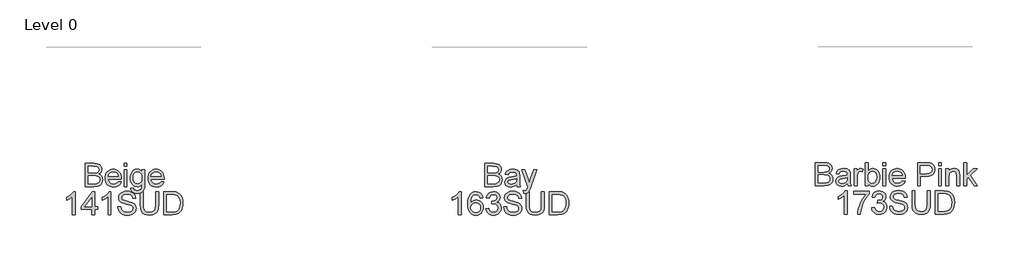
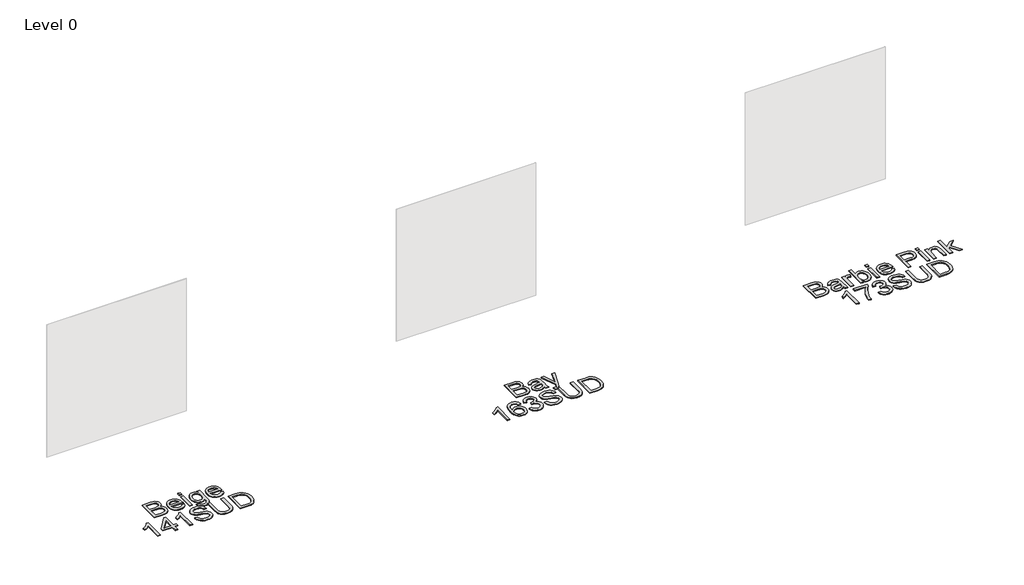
# One storey, part 27 of 37: 3 proxies.
"""IFC4 building model written with IfcOpenShell, lengths in millimetres."""

from ifc_helpers import new_model, si_unit, origin, origin_with_axes, place, context, project, spatial, polyline, outline, extrude, element, save

model = new_model("IFC4")

# Units and contexts
model_context = context("Model", 3, world=origin())
ifc_project = project(units=[si_unit("LENGTHUNIT", "METRE", prefix="MILLI")], contexts=[model_context])

# Site, building, storey
site = spatial("IfcSite", under=ifc_project)
building = spatial("IfcBuilding", under=site)
storey = spatial("IfcBuildingStorey", under=building, Name="Level 0", Elevation=0.0)

# Proxies
placement = place(None, origin())
element("IfcBuildingElementProxy", 1, Name="300mm Arial", ObjectType="300mm Arial", at=placement, inside=storey, context=model_context, shape_type="SweptSolid", body=[
    extrude(outline(polyline([(50.1996526, -12002.860494), (50.1996526, -11701.4915635), (165.1995643, -11701.4915635), (196.8282189, -11703.7080526), (221.5222978, -11710.3575196), (240.4498264, -11721.6055116), (254.7788302, -11737.6175755), (263.8011361, -11756.4531336), (266.8085714, -11776.1716086), (264.2793827, -11794.317388), (256.6918165, -11811.3779155), (243.9906906, -11826.3047274), (226.1208227, -11838.0493601), (247.4671755, -11849.1961846), (263.240116, -11866.1555446), (272.9797919, -11887.8054), (276.2263505, -11913.0237108), (274.0098615, -11934.0389697), (267.3603944, -11953.5275184), (257.4367776, -11970.1006023), (245.3978393, -11982.3694669), (230.6549683, -11991.253817), (212.6195535, -11997.6733578), (164.3166475, -12002.860494), (50.1996526, -12002.860494)]), holes=[polyline([(87.8707689, -11823.9226915), (156.664702, -11823.9226915), (196.8374159, -11820.68533), (210.8997052, -11815.1027207), (221.007263, -11806.7426024), (227.1049071, -11795.7337336), (229.1374551, -11782.2048733), (227.2428628, -11769.071486), (221.559086, -11757.630356), (212.343642, -11748.7000206), (199.8540483, -11743.0990172), (151.4407777, -11739.1626798), (87.8707689, -11739.1626798), (87.8707689, -11823.9226915)]), polyline([(87.8707689, -11965.1893777), (165.1259879, -11965.1893777), (193.0850196, -11963.7178497), (216.7398319, -11955.5140812), (232.4116048, -11938.7754504), (237.0193268, -11926.9480443), (238.5552342, -11913.3915928), (236.7526124, -11897.6462434), (231.3447471, -11884.1081859), (221.8993768, -11873.5223815), (207.9842404, -11866.6337912), (188.2749625, -11862.8538037), (161.447168, -11861.5938078), (87.8707689, -11861.5938078), (87.8707689, -11965.1893777)])]), origin_with_axes(), (0.0, 0.0, 1.0), 10.0),
    extrude(outline(polyline([(478.2671422, -11936.9360404), (515.2024945, -11941.64493), (501.8943634, -11969.4752029), (480.6583752, -11990.2789297), (451.9727766, -12003.2467701), (416.3158142, -12007.5693835), (392.941512, -12005.7046817), (372.1147925, -12000.1105761), (353.8356559, -11990.7870668), (338.1041021, -11977.7341537), (325.45356, -11961.3151204), (316.4174584, -11941.8932503), (310.9957975, -11919.4685435), (309.1885772, -11894.0409998), (311.0141916, -11867.7512327), (316.4910348, -11844.5792656), (325.6191069, -11824.5250983), (338.3984077, -11807.5887309), (354.0885748, -11794.133447), (371.9492456, -11784.5225298), (391.9804203, -11778.7559796), (414.1820987, -11776.8337961), (435.6687064, -11778.751381), (455.0997736, -11784.5041357), (472.4753001, -11794.0920602), (487.7952859, -11807.5151545), (500.3009745, -11824.4147337), (509.2336092, -11844.4321128), (514.59319, -11867.5672917), (516.3797169, -11893.8202706), (516.1589877, -11903.9738137), (346.8596935, -11903.9738137), (353.3804019, -11932.1719686), (368.5279431, -11952.902119), (390.3893306, -11965.6492302), (417.0515782, -11969.8982672), (437.101147, -11967.9300985), (453.9869305, -11962.0255925), (467.708929, -11951.8168672), (478.2671422, -11936.9360404)]), holes=[polyline([(346.8596935, -11866.3026974), (478.7086006, -11866.3026974), (473.613435, -11846.4002814), (463.6254388, -11832.1632482), (441.6628837, -11818.9194964), (414.0349459, -11814.5049125), (388.6418911, -11818.0273826), (367.6450263, -11828.5947929), (353.0493081, -11845.0667092), (346.8596935, -11866.3026974)])]), origin_with_axes(), (0.0, 0.0, 1.0), 10.0),
    extrude(outline(polyline([(554.0508332, -11739.1626798), (554.0508332, -11701.4915635), (591.7219495, -11701.4915635), (591.7219495, -11739.1626798), (554.0508332, -11739.1626798)])), origin_with_axes(), (0.0, 0.0, 1.0), 10.0),
    extrude(outline(polyline([(554.0508332, -12002.860494), (554.0508332, -11781.5426857), (591.7219495, -11781.5426857), (591.7219495, -12002.860494), (554.0508332, -12002.860494)])), origin_with_axes(), (0.0, 0.0, 1.0), 10.0),
    extrude(outline(polyline([(638.8108449, -12021.6960521), (676.4819612, -12026.4049417), (680.6390278, -12038.1771655), (688.6956435, -12046.2705694), (704.5329634, -12052.5613515), (725.2631138, -12054.6582789), (747.3728217, -12052.28544), (763.8171469, -12045.1669234), (775.2214887, -12033.7625816), (782.2112466, -12018.532267), (784.7864206, -11974.6071568), (772.2508416, -11986.9679918), (758.2621288, -11995.7971597), (742.820282, -12001.0946604), (725.9253014, -12002.860494), (705.2710266, -12000.8049533), (687.0861597, -11994.6383314), (671.3707008, -11984.3606281), (658.1246497, -11969.9718436), (647.6147209, -11952.708981), (640.107629, -11933.8090435), (635.6033738, -11913.2720311), (634.1019554, -11891.0979438), (636.796691, -11860.6832999), (644.8808978, -11832.7150712), (658.0694674, -11809.0142737), (676.077291, -11791.4019232), (698.2881665, -11780.4758279), (724.0858914, -11776.8337961), (741.7028404, -11778.8939353), (757.6919117, -11785.0743528), (772.053105, -11795.3750487), (784.7864206, -11809.7960229), (784.7864206, -11781.5426857), (822.4575369, -11781.5426857), (822.4575369, -11972.620594), (819.8823629, -12016.7388422), (812.156841, -12045.7923228), (798.8487099, -12065.0601423), (779.5257081, -12079.8214074), (754.6109, -12089.2023982), (724.5273498, -12092.3293952), (689.4773927, -12087.9240083), (661.877046, -12074.7078476), (651.4820804, -12064.7865301), (644.172725, -12052.644125), (639.9489798, -12038.2806323), (638.8108449, -12021.6960521)]), holes=[polyline([(671.7730717, -11888.5227699), (675.7921825, -11923.0760863), (687.8495149, -11946.8320661), (705.9769002, -11960.6000498), (728.2061697, -11965.1893777), (750.2698924, -11960.6276409), (768.4892482, -11946.9424307), (780.7121275, -11923.4899535), (784.7864206, -11889.6264159), (780.5925659, -11856.9676917), (768.0110016, -11833.4508352), (749.5249314, -11819.2413931), (727.6175586, -11814.5049125), (706.1056589, -11819.1678167), (688.0702441, -11833.1565296), (675.8473648, -11856.3238983), (671.7730717, -11888.5227699)])]), origin_with_axes(), (0.0, 0.0, 1.0), 10.0),
    extrude(outline(polyline([(1033.9161077, -11936.9360404), (1070.8514601, -11941.64493), (1057.5433289, -11969.4752029), (1036.3073407, -11990.2789297), (1007.6217421, -12003.2467701), (971.9647798, -12007.5693835), (948.5904775, -12005.7046817), (927.763758, -12000.1105761), (909.4846214, -11990.7870668), (893.7530676, -11977.7341537), (881.1025255, -11961.3151204), (872.066424, -11941.8932503), (866.6447631, -11919.4685435), (864.8375428, -11894.0409998), (866.6631572, -11867.7512327), (872.1400004, -11844.5792656), (881.2680724, -11824.5250983), (894.0473732, -11807.5887309), (909.7375403, -11794.133447), (927.5982111, -11784.5225298), (947.6293858, -11778.7559796), (969.8310642, -11776.8337961), (991.317672, -11778.751381), (1010.7487391, -11784.5041357), (1028.1242656, -11794.0920602), (1043.4442514, -11807.5151545), (1055.94994, -11824.4147337), (1064.8825747, -11844.4321128), (1070.2421555, -11867.5672917), (1072.0286824, -11893.8202706), (1071.8079532, -11903.9738137), (902.5086591, -11903.9738137), (909.0293674, -11932.1719686), (924.1769086, -11952.902119), (946.0382961, -11965.6492302), (972.7005437, -11969.8982672), (992.7501125, -11967.9300985), (1009.6358961, -11962.0255925), (1023.3578945, -11951.8168672), (1033.9161077, -11936.9360404)]), holes=[polyline([(902.5086591, -11866.3026974), (1034.3575661, -11866.3026974), (1029.2624005, -11846.4002814), (1019.2744043, -11832.1632482), (997.3118492, -11818.9194964), (969.6839114, -11814.5049125), (944.2908567, -11818.0273826), (923.2939918, -11828.5947929), (908.6982736, -11845.0667092), (902.5086591, -11866.3026974)])]), origin_with_axes(), (0.0, 0.0, 1.0), 10.0),
    extrude(outline(polyline([(-76.9403649, -12368.7849475), (-114.6114812, -12368.7849475), (-114.6114812, -12133.9290818), (-150.2960347, -12159.3497277), (-189.9537138, -12178.3692268), (-189.9537138, -12142.7582497), (-160.3668044, -12126.6634124), (-134.7346263, -12107.5151545), (-114.5287078, -12087.1528861), (-101.2205766, -12067.4160171), (-76.9403649, -12067.4160171), (-76.9403649, -12368.7849475)])), origin_with_axes(), (0.0, 0.0, 1.0), 10.0),
    extrude(outline(polyline([(134.9596643, -12368.7849475), (134.9596643, -12298.1516044), (-1.5981323, -12298.1516044), (-1.5981323, -12260.4804881), (144.3774434, -12072.1249066), (172.6307806, -12072.1249066), (172.6307806, -12260.4804881), (210.3018969, -12260.4804881), (210.3018969, -12298.1516044), (172.6307806, -12298.1516044), (172.6307806, -12368.7849475), (134.9596643, -12368.7849475)]), holes=[polyline([(134.9596643, -12260.4804881), (134.9596643, -12144.0826249), (44.7549991, -12260.4804881), (134.9596643, -12260.4804881)])]), origin_with_axes(), (0.0, 0.0, 1.0), 10.0),
    extrude(outline(polyline([(384.5308099, -12368.7849475), (346.8596935, -12368.7849475), (346.8596935, -12133.9290818), (311.17514, -12159.3497277), (271.5174609, -12178.3692268), (271.5174609, -12142.7582497), (301.1043704, -12126.6634124), (326.7365484, -12107.5151545), (346.942467, -12087.1528861), (360.2505982, -12067.4160171), (384.5308099, -12067.4160171), (384.5308099, -12368.7849475)])), origin_with_axes(), (0.0, 0.0, 1.0), 10.0),
    extrude(outline(polyline([(473.9997111, -12265.1893777), (511.6708274, -12265.1893777), (515.9934408, -12286.0942721), (523.8109332, -12302.8972822), (536.0062214, -12316.2330045), (553.462222, -12326.7360355), (574.7993778, -12333.5510494), (598.638131, -12335.8227207), (619.6257989, -12334.1028724), (638.0015045, -12328.9433274), (652.8915283, -12320.7763471), (663.4221504, -12310.0341929), (669.6853414, -12297.700949), (671.7730717, -12284.7606998), (670.2095732, -12272.1515444), (665.5190778, -12261.2530403), (655.9909341, -12251.9548229), (639.9144909, -12244.1465276), (585.0632854, -12229.7623415), (549.0568351, -12220.2433949), (526.0182252, -12211.1843008), (507.2654405, -12198.510766), (493.9757034, -12183.1516928), (486.0570435, -12165.4381747), (483.4174902, -12145.7013056), (486.6824429, -12123.637583), (496.477301, -12103.0637824), (512.5445471, -12085.6261758), (534.6266639, -12072.9710352), (561.1325616, -12065.2731044), (590.4711508, -12062.7071275), (622.2561551, -12065.3926661), (650.068034, -12073.4492818), (672.9135059, -12086.7114277), (689.7992895, -12105.013557), (700.4862614, -12127.2152354), (704.7352985, -12152.1760288), (667.0641821, -12152.1760288), (660.1480006, -12129.6984389), (645.7270264, -12113.4748429), (623.1942542, -12103.6523936), (591.9426787, -12100.3782438), (559.9553393, -12103.6156054), (538.0111782, -12113.3276901), (525.3192494, -12127.6199056), (521.0886065, -12144.5976597), (524.0868447, -12159.0738162), (533.0815595, -12170.7172813), (554.3451388, -12181.1283418), (594.5914291, -12191.7601314), (636.1253064, -12201.8584922), (661.2516466, -12210.669266), (682.7267581, -12224.3360821), (697.7087523, -12241.2034716), (706.5103291, -12261.0874934), (709.444188, -12283.8042066), (706.0688707, -12307.0267576), (695.9429188, -12328.869751), (679.4801995, -12347.668521), (657.0945801, -12361.7584014), (630.1748151, -12370.5599781), (600.109659, -12373.4938371), (563.2018979, -12370.3300519), (532.8240421, -12360.8386964), (508.6266039, -12344.9829824), (490.2600953, -12322.7261217), (478.4694773, -12295.6132187), (473.9997111, -12265.1893777)])), origin_with_axes(), (0.0, 0.0, 1.0), 10.0),
    extrude(outline(polyline([(963.7242231, -12067.4160171), (1001.3953394, -12067.4160171), (1001.3953394, -12241.277048), (998.8385595, -12281.9923878), (991.1682199, -12313.3451308), (976.8392162, -12337.533372), (954.306444, -12356.7552063), (923.514721, -12369.3091794), (884.4088649, -12373.4938371), (846.1583345, -12369.8518053), (815.5781436, -12358.92571), (792.6590953, -12341.0926303), (777.3919925, -12316.7296452), (768.811145, -12284.052527), (765.9508625, -12241.277048), (765.9508625, -12067.4160171), (803.6219788, -12067.4160171), (803.6219788, -12239.9526728), (805.4797828, -12273.8070134), (811.0531951, -12297.3790523), (821.1515558, -12313.7038158), (836.5842055, -12325.8163305), (856.7073507, -12333.3211232), (880.8771977, -12335.8227207), (919.1921075, -12330.8747079), (933.5349068, -12324.6896919), (944.6679357, -12316.0306694), (953.0050614, -12303.8537754), (958.9601512, -12287.1151446), (963.7242231, -12239.9526728), (963.7242231, -12067.4160171)])), origin_with_axes(), (0.0, 0.0, 1.0), 10.0),
    extrude(outline(polyline([(1067.3197929, -12368.7849475), (1067.3197929, -12067.4160171), (1171.2832447, -12067.4160171), (1225.0675924, -12071.7570246), (1249.0902867, -12080.12634), (1269.3605847, -12093.3149095), (1290.2010997, -12116.270746), (1305.0451382, -12144.8183889), (1313.9294884, -12178.406015), (1316.8909384, -12216.4818015), (1314.8859816, -12248.8278259), (1308.8711109, -12277.2926953), (1299.7108493, -12301.5269217), (1288.2697192, -12321.1810173), (1275.0995438, -12336.6964405), (1260.752146, -12348.5146496), (1244.2802296, -12357.2794381), (1224.7364986, -12363.6345996), (1176.2864399, -12368.7849475), (1067.3197929, -12368.7849475)]), holes=[polyline([(1104.9909092, -12331.1138312), (1171.6511267, -12331.1138312), (1199.2238823, -12329.7526678), (1220.1379737, -12325.6691777), (1235.9201113, -12319.1024841), (1248.0970053, -12310.2917103), (1261.1844073, -12293.9853408), (1271.0160536, -12272.8781114), (1277.16888, -12246.8780514), (1279.2198221, -12215.8931903), (1275.2007113, -12174.8375597), (1263.1433789, -12144.5240833), (1245.3286933, -12123.7019623), (1224.0375228, -12111.1203981), (1202.3692733, -12106.5954496), (1170.6210571, -12105.0871334), (1104.9909092, -12105.0871334), (1104.9909092, -12331.1138312)])]), origin_with_axes(), (0.0, 0.0, 1.0), 10.0),
])
element("IfcBuildingElementProxy", 2, Name="300mm Arial", ObjectType="300mm Arial", at=placement, inside=storey, context=model_context, shape_type="SweptSolid", body=[
    extrude(outline(polyline([(5226.7830103, -12002.860494), (5226.7830103, -11701.4915635), (5341.782922, -11701.4915635), (5373.4115765, -11703.7080526), (5398.1056555, -11710.3575196), (5417.0331841, -11721.6055116), (5431.3621878, -11737.6175755), (5440.3844938, -11756.4531336), (5443.3919291, -11776.1716086), (5440.8627404, -11794.317388), (5433.2751742, -11811.3779155), (5420.5740483, -11826.3047274), (5402.7041804, -11838.0493601), (5424.0505332, -11849.1961846), (5439.8234737, -11866.1555446), (5449.5631496, -11887.8054), (5452.8097082, -11913.0237108), (5450.5932191, -11934.0389697), (5443.9437521, -11953.5275184), (5434.0201353, -11970.1006023), (5421.981197, -11982.3694669), (5407.238326, -11991.253817), (5389.2029112, -11997.6733578), (5340.9000052, -12002.860494), (5226.7830103, -12002.860494)]), holes=[polyline([(5264.4541266, -11823.9226915), (5333.2480597, -11823.9226915), (5373.4207736, -11820.68533), (5387.4830629, -11815.1027207), (5397.5906207, -11806.7426024), (5403.6882648, -11795.7337336), (5405.7208128, -11782.2048733), (5403.8262205, -11769.071486), (5398.1424437, -11757.630356), (5388.9269997, -11748.7000206), (5376.437406, -11743.0990172), (5328.0241354, -11739.1626798), (5264.4541266, -11739.1626798), (5264.4541266, -11823.9226915)]), polyline([(5264.4541266, -11965.1893777), (5341.7093456, -11965.1893777), (5369.6683772, -11963.7178497), (5393.3231895, -11955.5140812), (5408.9949625, -11938.7754504), (5413.6026845, -11926.9480443), (5415.1385919, -11913.3915928), (5413.3359701, -11897.6462434), (5407.9281047, -11884.1081859), (5398.4827345, -11873.5223815), (5384.5675981, -11866.6337912), (5364.8583202, -11862.8538037), (5338.0305257, -11861.5938078), (5264.4541266, -11861.5938078), (5264.4541266, -11965.1893777)])]), origin_with_axes(), (0.0, 0.0, 1.0), 10.0),
    extrude(outline(polyline([(5641.1652897, -11974.6071568), (5623.1666631, -11990.0398064), (5604.6346076, -12000.1381672), (5585.1460589, -12005.7115794), (5564.2779527, -12007.5693835), (5532.796451, -12003.0996173), (5509.5739, -11989.6903186), (5495.2540934, -11969.3280501), (5490.4808245, -11943.9993748), (5492.2834462, -11928.3827841), (5497.6913116, -11914.2009331), (5506.0330358, -11902.0608273), (5516.6372343, -11892.5694718), (5543.0143734, -11880.2086368), (5575.6087181, -11874.5432541), (5614.125963, -11868.5835657), (5640.9445605, -11861.5938078), (5641.1652897, -11853.2060983), (5638.5717216, -11836.3938912), (5630.7910174, -11825.3942195), (5613.3901991, -11817.2272392), (5589.1467756, -11814.5049125), (5566.7059739, -11816.3167313), (5551.0342009, -11821.7521878), (5540.3472289, -11831.8045633), (5532.8608303, -11847.4671392), (5495.189714, -11842.7582497), (5501.7288165, -11822.156858), (5511.4868864, -11805.9700502), (5525.3744317, -11793.590821), (5544.3019604, -11784.4121652), (5567.4509349, -11778.7283884), (5594.0028179, -11776.8337961), (5619.469449, -11778.5076592), (5639.6569735, -11783.5292485), (5654.8780911, -11791.0800264), (5665.4455014, -11800.3414556), (5672.4536534, -11811.7917827), (5676.996996, -11825.9092543), (5678.836406, -11858.8714811), (5678.836406, -11905.7396473), (5680.7493924, -11971.1858542), (5688.2541851, -12002.860494), (5650.5830688, -12002.860494), (5641.1652897, -11974.6071568)]), holes=[polyline([(5641.1652897, -11899.2649241), (5580.3911841, -11910.8164188), (5547.9807803, -11916.9232599), (5533.3022887, -11926.8560738), (5528.1519408, -11941.3506244), (5530.957041, -11952.5526311), (5539.3723416, -11961.7312869), (5553.2139017, -11967.8565221), (5572.2977802, -11969.8982672), (5592.5312899, -11967.64499), (5610.4103549, -11960.8851583), (5624.9049055, -11950.9247533), (5634.9848722, -11939.069756), (5639.4546384, -11926.8560738), (5640.9445605, -11909.933502), (5641.1652897, -11899.2649241)])]), origin_with_axes(), (0.0, 0.0, 1.0), 10.0),
    extrude(outline(polyline([(5730.6341909, -12087.6205057), (5725.9253014, -12051.3473409), (5745.0551651, -12054.6582789), (5762.9342301, -12050.5012124), (5773.8971135, -12038.9129295), (5784.1978094, -12011.1746271), (5787.1408654, -12002.0511536), (5707.0897432, -11781.5426857), (5746.8209987, -11781.5426857), (5789.2745809, -11904.4152721), (5804.0634372, -11953.5643066), (5818.8522934, -11910.1542312), (5862.483098, -11781.5426857), (5901.9200479, -11781.5426857), (5824.8855581, -12008.1579947), (5804.8727775, -12057.3070293), (5794.627264, -12072.9971964), (5783.020587, -12083.8681093), (5769.5377119, -12090.2140737), (5753.6636038, -12092.3293952), (5730.6341909, -12087.6205057)])), origin_with_axes(), (0.0, 0.0, 1.0), 10.0),
    extrude(outline(polyline([(4923.0596351, -12368.7849475), (4885.3885188, -12368.7849475), (4885.3885188, -12133.9290818), (4849.7039653, -12159.3497277), (4810.0462862, -12178.3692268), (4810.0462862, -12142.7582497), (4839.6331956, -12126.6634124), (4865.2653737, -12107.5151545), (4885.4712922, -12087.1528861), (4898.7794234, -12067.4160171), (4923.0596351, -12067.4160171), (4923.0596351, -12368.7849475)])), origin_with_axes(), (0.0, 0.0, 1.0), 10.0),
    extrude(outline(polyline([(5205.5930074, -12147.4671392), (5167.9218911, -12152.1760288), (5161.8518382, -12133.5060175), (5153.6480697, -12120.7589064), (5136.559951, -12109.0050766), (5115.903377, -12105.0871334), (5098.392194, -12107.3680017), (5081.9110806, -12114.2106069), (5067.7568209, -12128.622384), (5056.1961292, -12148.4604206), (5048.3878338, -12176.5206198), (5045.4907631, -12215.5988847), (5060.6015161, -12197.9681401), (5078.7105073, -12185.5429257), (5098.8060612, -12178.1760888), (5119.8765025, -12175.7204764), (5137.9762967, -12177.3989381), (5154.6781393, -12182.4343229), (5169.9820303, -12190.8266309), (5183.8879697, -12202.5758621), (5195.4440629, -12216.9830407), (5203.6984151, -12233.349191), (5208.6510265, -12251.6743129), (5210.3018969, -12271.9584064), (5207.1932941, -12298.9333537), (5197.8674855, -12323.9401323), (5183.0970234, -12345.1485293), (5163.6544599, -12360.7283318), (5140.422712, -12370.3024607), (5114.2846962, -12373.4938371), (5091.8277997, -12371.3785156), (5071.5460054, -12365.0325512), (5053.4393135, -12354.4559438), (5037.5077238, -12339.6486935), (5024.5191901, -12319.9854009), (5015.241666, -12294.8406665), (5009.6751516, -12264.2144904), (5007.8196468, -12228.1068726), (5009.879786, -12187.6260575), (5016.0602035, -12153.0773396), (5026.3608993, -12124.4607189), (5040.7818736, -12101.7761954), (5056.4122598, -12086.7436174), (5074.5350466, -12076.0060617), (5095.1502339, -12069.5635282), (5118.2578217, -12067.4160171), (5151.312019, -12072.7319119), (5177.7811286, -12088.6795964), (5196.3223811, -12114.0082718), (5205.5930074, -12147.4671392)]), holes=[polyline([(5045.4907631, -12271.3697952), (5047.6704639, -12288.0624407), (5054.2095664, -12304.0009282), (5064.3631095, -12317.7045325), (5077.3861321, -12327.6925287), (5093.1038903, -12333.7901727), (5111.3416402, -12335.8227207), (5136.2012661, -12331.6104719), (5155.7449971, -12318.9737254), (5168.4093347, -12299.1080976), (5172.6307806, -12273.2092052), (5168.464517, -12248.3495793), (5155.9657263, -12229.3944595), (5136.0909015, -12217.3923095), (5109.7965359, -12213.3915928), (5084.9736982, -12217.3923095), (5064.2159567, -12229.3944595), (5050.1720615, -12247.8897269), (5045.4907631, -12271.3697952)])]), origin_with_axes(), (0.0, 0.0, 1.0), 10.0),
    extrude(outline(polyline([(5243.2641237, -12288.7338254), (5280.93524, -12284.0249358), (5289.3689348, -12307.6981422), (5301.7205727, -12323.6826149), (5318.5971593, -12332.7876943), (5340.6056996, -12335.8227207), (5366.4310157, -12331.6472601), (5386.3702198, -12319.1208782), (5399.117331, -12300.4324728), (5403.366368, -12277.7709419), (5399.1541192, -12256.2590422), (5386.5173726, -12238.8122386), (5367.3875089, -12227.2515469), (5343.6959084, -12223.397983), (5317.2819811, -12227.5182614), (5321.4758359, -12189.8471451), (5327.5091006, -12190.2886035), (5350.078661, -12187.5846708), (5370.2569884, -12179.4728728), (5384.4940217, -12165.7508744), (5389.2396994, -12146.2163404), (5385.8000027, -12129.9467592), (5375.4809128, -12116.7489926), (5359.7355634, -12108.0025982), (5340.0170884, -12105.0871334), (5320.2618253, -12108.0301893), (5304.1118057, -12116.8593572), (5292.3211878, -12131.574637), (5285.6441295, -12152.1760288), (5247.9730132, -12147.4671392), (5259.0646554, -12113.6403898), (5278.8015244, -12088.3852908), (5305.8040629, -12072.6583355), (5338.6927133, -12067.4160171), (5362.3751167, -12070.0003881), (5384.1261397, -12077.7535011), (5402.4650571, -12089.9855775), (5415.911144, -12106.0068384), (5424.1608978, -12124.4653175), (5426.9108157, -12144.0090485), (5424.2988535, -12162.2192072), (5416.462967, -12178.7371088), (5403.5135208, -12192.8085951), (5385.5608794, -12203.6795081), (5409.1421153, -12213.2076518), (5426.6165101, -12229.4312477), (5437.4322408, -12251.4673793), (5441.0374843, -12278.4331295), (5439.2348625, -12297.5445992), (5433.8269972, -12315.1477526), (5424.8138883, -12331.2425899), (5412.1955359, -12345.829111), (5396.822667, -12357.9324287), (5379.5460088, -12366.5776555), (5360.3655613, -12371.7647917), (5339.2813244, -12373.4938371), (5320.2250371, -12372.0177105), (5302.8610069, -12367.589331), (5287.1892339, -12360.2086985), (5273.2097181, -12349.875813), (5261.488078, -12337.1976797), (5252.5899323, -12322.781304), (5246.5152808, -12306.6266859), (5243.2641237, -12288.7338254)])), origin_with_axes(), (0.0, 0.0, 1.0), 10.0),
    extrude(outline(polyline([(5473.9997111, -12265.1893777), (5511.6708274, -12265.1893777), (5515.9934408, -12286.0942721), (5523.8109332, -12302.8972822), (5536.0062214, -12316.2330045), (5553.462222, -12326.7360355), (5574.7993778, -12333.5510494), (5598.638131, -12335.8227207), (5619.6257989, -12334.1028724), (5638.0015045, -12328.9433274), (5652.8915283, -12320.7763471), (5663.4221504, -12310.0341929), (5669.6853414, -12297.700949), (5671.7730717, -12284.7606998), (5670.2095732, -12272.1515444), (5665.5190778, -12261.2530403), (5655.9909341, -12251.9548229), (5639.9144909, -12244.1465276), (5585.0632854, -12229.7623415), (5549.0568351, -12220.2433949), (5526.0182252, -12211.1843008), (5507.2654405, -12198.510766), (5493.9757034, -12183.1516928), (5486.0570435, -12165.4381747), (5483.4174902, -12145.7013056), (5486.6824429, -12123.637583), (5496.477301, -12103.0637824), (5512.5445471, -12085.6261758), (5534.6266639, -12072.9710352), (5561.1325616, -12065.2731044), (5590.4711508, -12062.7071275), (5622.2561551, -12065.3926661), (5650.068034, -12073.4492818), (5672.9135059, -12086.7114277), (5689.7992895, -12105.013557), (5700.4862614, -12127.2152354), (5704.7352985, -12152.1760288), (5667.0641821, -12152.1760288), (5660.1480006, -12129.6984389), (5645.7270264, -12113.4748429), (5623.1942542, -12103.6523936), (5591.9426787, -12100.3782438), (5559.9553393, -12103.6156054), (5538.0111782, -12113.3276901), (5525.3192494, -12127.6199056), (5521.0886065, -12144.5976597), (5524.0868447, -12159.0738162), (5533.0815595, -12170.7172813), (5554.3451388, -12181.1283418), (5594.5914291, -12191.7601314), (5636.1253064, -12201.8584922), (5661.2516466, -12210.669266), (5682.7267581, -12224.3360821), (5697.7087523, -12241.2034716), (5706.5103291, -12261.0874934), (5709.444188, -12283.8042066), (5706.0688707, -12307.0267576), (5695.9429188, -12328.869751), (5679.4801995, -12347.668521), (5657.0945801, -12361.7584014), (5630.1748151, -12370.5599781), (5600.109659, -12373.4938371), (5563.2018979, -12370.3300519), (5532.8240421, -12360.8386964), (5508.6266039, -12344.9829824), (5490.2600953, -12322.7261217), (5478.4694773, -12295.6132187), (5473.9997111, -12265.1893777)])), origin_with_axes(), (0.0, 0.0, 1.0), 10.0),
    extrude(outline(polyline([(5963.7242231, -12067.4160171), (6001.3953394, -12067.4160171), (6001.3953394, -12241.277048), (5998.8385595, -12281.9923878), (5991.1682199, -12313.3451308), (5976.8392162, -12337.533372), (5954.306444, -12356.7552063), (5923.514721, -12369.3091794), (5884.4088649, -12373.4938371), (5846.1583345, -12369.8518053), (5815.5781436, -12358.92571), (5792.6590953, -12341.0926303), (5777.3919925, -12316.7296452), (5768.811145, -12284.052527), (5765.9508625, -12241.277048), (5765.9508625, -12067.4160171), (5803.6219788, -12067.4160171), (5803.6219788, -12239.9526728), (5805.4797828, -12273.8070134), (5811.0531951, -12297.3790523), (5821.1515558, -12313.7038158), (5836.5842055, -12325.8163305), (5856.7073507, -12333.3211232), (5880.8771977, -12335.8227207), (5919.1921075, -12330.8747079), (5933.5349068, -12324.6896919), (5944.6679357, -12316.0306694), (5953.0050614, -12303.8537754), (5958.9601512, -12287.1151446), (5963.7242231, -12239.9526728), (5963.7242231, -12067.4160171)])), origin_with_axes(), (0.0, 0.0, 1.0), 10.0),
    extrude(outline(polyline([(6067.3197929, -12368.7849475), (6067.3197929, -12067.4160171), (6171.2832447, -12067.4160171), (6225.0675924, -12071.7570246), (6249.0902867, -12080.12634), (6269.3605847, -12093.3149095), (6290.2010997, -12116.270746), (6305.0451382, -12144.8183889), (6313.9294884, -12178.406015), (6316.8909384, -12216.4818015), (6314.8859816, -12248.8278259), (6308.8711109, -12277.2926953), (6299.7108493, -12301.5269217), (6288.2697192, -12321.1810173), (6275.0995438, -12336.6964405), (6260.752146, -12348.5146496), (6244.2802296, -12357.2794381), (6224.7364986, -12363.6345996), (6176.2864399, -12368.7849475), (6067.3197929, -12368.7849475)]), holes=[polyline([(6104.9909092, -12331.1138312), (6171.6511267, -12331.1138312), (6199.2238823, -12329.7526678), (6220.1379737, -12325.6691777), (6235.9201113, -12319.1024841), (6248.0970053, -12310.2917103), (6261.1844073, -12293.9853408), (6271.0160536, -12272.8781114), (6277.16888, -12246.8780514), (6279.2198221, -12215.8931903), (6275.2007113, -12174.8375597), (6263.1433789, -12144.5240833), (6245.3286933, -12123.7019623), (6224.0375228, -12111.1203981), (6202.3692733, -12106.5954496), (6170.6210571, -12105.0871334), (6104.9909092, -12105.0871334), (6104.9909092, -12331.1138312)])]), origin_with_axes(), (0.0, 0.0, 1.0), 10.0),
])
element("IfcBuildingElementProxy", 3, Name="300mm Arial", ObjectType="300mm Arial", at=placement, inside=storey, context=model_context, shape_type="SweptSolid", body=[
    extrude(outline(polyline([(9513.3862453, -11992.860494), (9513.3862453, -11691.4915635), (9628.386157, -11691.4915635), (9660.0148115, -11693.7080526), (9684.7088904, -11700.3575196), (9703.6364191, -11711.6055116), (9717.9654228, -11727.6175755), (9726.9877287, -11746.4531336), (9729.995164, -11766.1716086), (9727.4659753, -11784.317388), (9719.8784092, -11801.3779155), (9707.1772833, -11816.3047274), (9689.3074154, -11828.0493601), (9710.6537681, -11839.1961846), (9726.4267087, -11856.1555446), (9736.1663845, -11877.8054), (9739.4129431, -11903.0237108), (9737.1964541, -11924.0389697), (9730.546987, -11943.5275184), (9720.6233702, -11960.1006023), (9708.5844319, -11972.3694669), (9693.841561, -11981.253817), (9675.8061461, -11987.6733578), (9627.5032402, -11992.860494), (9513.3862453, -11992.860494)]), holes=[polyline([(9551.0573616, -11813.9226915), (9619.8512947, -11813.9226915), (9660.0240086, -11810.68533), (9674.0862978, -11805.1027207), (9684.1938556, -11796.7426024), (9690.2914997, -11785.7337336), (9692.3240477, -11772.2048733), (9690.4294555, -11759.071486), (9684.7456786, -11747.630356), (9675.5302346, -11738.7000206), (9663.0406409, -11733.0990172), (9614.6273703, -11729.1626798), (9551.0573616, -11729.1626798), (9551.0573616, -11813.9226915)]), polyline([(9551.0573616, -11955.1893777), (9628.3125806, -11955.1893777), (9656.2716122, -11953.7178497), (9679.9264245, -11945.5140812), (9695.5981975, -11928.7754504), (9700.2059195, -11916.9480443), (9701.7418268, -11903.3915928), (9699.939205, -11887.6462434), (9694.5313397, -11874.1081859), (9685.0859695, -11863.5223815), (9671.170833, -11856.6337912), (9651.4615551, -11852.8538037), (9624.6337606, -11851.5938078), (9551.0573616, -11851.5938078), (9551.0573616, -11955.1893777)])]), origin_with_axes(), (0.0, 0.0, 1.0), 10.0),
    extrude(outline(polyline([(9927.7685246, -11964.6071568), (9909.769898, -11980.0398064), (9891.2378425, -11990.1381672), (9871.7492938, -11995.7115794), (9850.8811877, -11997.5693835), (9819.3996859, -11993.0996173), (9796.177135, -11979.6903186), (9781.8573283, -11959.3280501), (9777.0840594, -11933.9993748), (9778.8866812, -11918.3827841), (9784.2945465, -11904.2009331), (9792.6362708, -11892.0608273), (9803.2404693, -11882.5694718), (9829.6176083, -11870.2086368), (9862.2119531, -11864.5432541), (9900.729198, -11858.5835657), (9927.5477954, -11851.5938078), (9927.7685246, -11843.2060983), (9925.1749566, -11826.3938912), (9917.3942524, -11815.3942195), (9899.993434, -11807.2272392), (9875.7500105, -11804.5049125), (9853.3092088, -11806.3167313), (9837.6374358, -11811.7521878), (9826.9504639, -11821.8045633), (9819.4640653, -11837.4671392), (9781.792949, -11832.7582497), (9788.3320514, -11812.156858), (9798.0901213, -11795.9700502), (9811.9776667, -11783.590821), (9830.9051953, -11774.4121652), (9854.0541699, -11768.7283884), (9880.6060529, -11766.8337961), (9906.072684, -11768.5076592), (9926.2602085, -11773.5292485), (9941.481326, -11781.0800264), (9952.0487363, -11790.3414556), (9959.0568883, -11801.7917827), (9963.600231, -11815.9092543), (9965.4396409, -11848.8714811), (9965.4396409, -11895.7396473), (9967.3526273, -11961.1858542), (9974.85742, -11992.860494), (9937.1863037, -11992.860494), (9927.7685246, -11964.6071568)]), holes=[polyline([(9927.7685246, -11889.2649241), (9866.994419, -11900.8164188), (9834.5840153, -11906.9232599), (9819.9055237, -11916.8560738), (9814.7551757, -11931.3506244), (9817.5602759, -11942.5526311), (9825.9755766, -11951.7312869), (9839.8171366, -11957.8565221), (9858.9010151, -11959.8982672), (9879.1345249, -11957.64499), (9897.0135898, -11950.8851583), (9911.5081405, -11940.9247533), (9921.5881071, -11929.069756), (9926.0578734, -11916.8560738), (9927.5477954, -11899.933502), (9927.7685246, -11889.2649241)])]), origin_with_axes(), (0.0, 0.0, 1.0), 10.0),
    extrude(outline(polyline([(10017.2374259, -11992.860494), (10017.2374259, -11771.5426857), (10050.1996526, -11771.5426857), (10050.1996526, -11804.2841833), (10062.3765467, -11785.3014723), (10073.5969475, -11774.1178596), (10084.8541366, -11768.654812), (10097.1413952, -11766.8337961), (10115.903377, -11769.7400639), (10134.9596643, -11778.4588672), (10122.3781001, -11812.2304343), (10109.1343483, -11806.4362929), (10095.8905964, -11804.5049125), (10084.6426044, -11806.3627165), (10074.5902289, -11811.9361288), (10066.4692339, -11820.8020848), (10061.0153833, -11832.5375205), (10056.4352525, -11853.5803706), (10054.9085422, -11876.5362071), (10054.9085422, -11992.860494), (10017.2374259, -11992.860494)])), origin_with_axes(), (0.0, 0.0, 1.0), 10.0),
    extrude(outline(polyline([(10196.1752283, -11992.860494), (10158.504112, -11992.860494), (10158.504112, -11691.4915635), (10196.1752283, -11691.4915635), (10196.1752283, -11803.2541137), (10208.5636545, -11787.3202248), (10222.5523674, -11775.9388755), (10238.1413669, -11769.110066), (10255.3306531, -11766.8337961), (10274.7364284, -11768.8847383), (10293.0753459, -11775.0375646), (10309.2989418, -11784.9059992), (10322.3587527, -11798.1037657), (10332.5950692, -11814.5021057), (10340.3481822, -11833.9722603), (10345.2318157, -11855.7048891), (10346.8596935, -11878.8906519), (10345.1743342, -11905.64487), (10340.118256, -11929.1801206), (10331.691459, -11949.4964038), (10319.8939433, -11966.5937195), (10305.7327857, -11980.1455725), (10290.2150633, -11989.8254675), (10273.3407761, -11995.6334045), (10255.109924, -11997.5693835), (10237.3550192, -11995.0723845), (10221.6142683, -11987.5813874), (10207.8876713, -11975.0963921), (10196.1752283, -11957.6173988), (10196.1752283, -11992.860494)]), holes=[polyline([(10196.1752283, -11880.6564855), (10198.7504023, -11912.0736078), (10206.4759242, -11933.3371872), (10215.6039962, -11944.9576597), (10226.2127932, -11953.2579972), (10238.3023153, -11958.2381997), (10251.8725624, -11959.8982672), (10273.6143883, -11955.0054367), (10292.1924291, -11940.3269451), (10304.9395402, -11915.9547629), (10309.1885772, -11881.9808606), (10305.1142841, -11847.5103177), (10292.8914049, -11823.414047), (10274.8927782, -11809.2321961), (10253.4912432, -11804.5049125), (10231.7494173, -11809.397743), (10213.1713765, -11824.0762346), (10200.4242654, -11848.0069584), (10196.1752283, -11880.6564855)])]), origin_with_axes(), (0.0, 0.0, 1.0), 10.0),
    extrude(outline(polyline([(10389.2396994, -11729.1626798), (10389.2396994, -11691.4915635), (10426.9108157, -11691.4915635), (10426.9108157, -11729.1626798), (10389.2396994, -11729.1626798)])), origin_with_axes(), (0.0, 0.0, 1.0), 10.0),
    extrude(outline(polyline([(10389.2396994, -11992.860494), (10389.2396994, -11771.5426857), (10426.9108157, -11771.5426857), (10426.9108157, -11992.860494), (10389.2396994, -11992.860494)])), origin_with_axes(), (0.0, 0.0, 1.0), 10.0),
    extrude(outline(polyline([(10638.3693865, -11926.9360404), (10675.3047388, -11931.64493), (10661.9966077, -11959.4752029), (10640.7606195, -11980.2789297), (10612.0750209, -11993.2467701), (10576.4180585, -11997.5693835), (10553.0437563, -11995.7046817), (10532.2170368, -11990.1105761), (10513.9379002, -11980.7870668), (10498.2063464, -11967.7341537), (10485.5558043, -11951.3151204), (10476.5197027, -11931.8932503), (10471.0980418, -11909.4685435), (10469.2908215, -11884.0409998), (10471.1164359, -11857.7512327), (10476.5932791, -11834.5792656), (10485.7213512, -11814.5250983), (10498.500652, -11797.5887309), (10514.1908191, -11784.133447), (10532.0514899, -11774.5225298), (10552.0826646, -11768.7559796), (10574.284343, -11766.8337961), (10595.7709507, -11768.751381), (10615.2020179, -11774.5041357), (10632.5775444, -11784.0920602), (10647.8975302, -11797.5151545), (10660.4032188, -11814.4147337), (10669.3358535, -11834.4321128), (10674.6954343, -11857.5672917), (10676.4819612, -11883.8202706), (10676.261232, -11893.9738137), (10506.9619378, -11893.9738137), (10513.4826462, -11922.1719686), (10528.6301874, -11942.902119), (10550.4915749, -11955.6492302), (10577.1538225, -11959.8982672), (10597.2033913, -11957.9300985), (10614.0891748, -11952.0255925), (10627.8111733, -11941.8168672), (10638.3693865, -11926.9360404)]), holes=[polyline([(10506.9619378, -11856.3026974), (10638.8108449, -11856.3026974), (10633.7156793, -11836.4002814), (10623.7276831, -11822.1632482), (10601.765128, -11808.9194964), (10574.1371902, -11804.5049125), (10548.7441355, -11808.0273826), (10527.7472706, -11818.5947929), (10513.1515524, -11835.0667092), (10506.9619378, -11856.3026974)])]), origin_with_axes(), (0.0, 0.0, 1.0), 10.0),
    extrude(outline(polyline([(10836.5842055, -11992.860494), (10836.5842055, -11691.4915635), (10948.2731793, -11691.4915635), (10993.3019355, -11694.3610431), (11013.3790954, -11699.7229232), (11029.906194, -11708.4509235), (11043.2143252, -11720.9405172), (11053.6345827, -11737.5871775), (11060.3668232, -11757.222879), (11062.6109034, -11778.6795964), (11061.0956894, -11797.1794622), (11056.5500475, -11814.198603), (11048.9739777, -11829.7370188), (11038.3674799, -11843.7947095), (11023.8062507, -11855.4473717), (11004.3659865, -11863.7707019), (10980.0466873, -11868.7647), (10950.8483532, -11870.429366), (10874.2553218, -11870.429366), (10874.2553218, -11992.860494), (10836.5842055, -11992.860494)]), holes=[polyline([(10874.2553218, -11832.7582497), (10953.0556452, -11832.7582497), (10986.4593304, -11829.3001589), (11008.5322501, -11818.9258867), (11020.8379028, -11802.2792264), (11024.9397871, -11780.0039716), (11022.5209629, -11763.0813998), (11015.2644906, -11748.8075784), (11004.0716809, -11738.0654241), (10989.8438447, -11731.7378538), (10952.1727284, -11729.1626798), (10874.2553218, -11729.1626798), (10874.2553218, -11832.7582497)])]), origin_with_axes(), (0.0, 0.0, 1.0), 10.0),
    extrude(outline(polyline([(11109.6997987, -11729.1626798), (11109.6997987, -11691.4915635), (11147.3709151, -11691.4915635), (11147.3709151, -11729.1626798), (11109.6997987, -11729.1626798)])), origin_with_axes(), (0.0, 0.0, 1.0), 10.0),
    extrude(outline(polyline([(11109.6997987, -11992.860494), (11109.6997987, -11771.5426857), (11147.3709151, -11771.5426857), (11147.3709151, -11992.860494), (11109.6997987, -11992.860494)])), origin_with_axes(), (0.0, 0.0, 1.0), 10.0),
    extrude(outline(polyline([(11203.8775895, -11992.860494), (11203.8775895, -11771.5426857), (11241.5487058, -11771.5426857), (11241.5487058, -11802.4447733), (11254.6361078, -11786.8649708), (11270.353866, -11775.7365404), (11288.7019805, -11769.0594822), (11309.6804513, -11766.8337961), (11328.249295, -11768.6272209), (11345.2546403, -11774.0074951), (11359.4364912, -11782.303234), (11369.5348519, -11792.8430532), (11380.8288292, -11820.5445674), (11382.815392, -11856.964885), (11382.815392, -11992.860494), (11345.1442757, -11992.860494), (11345.1442757, -11862.0416565), (11340.8032681, -11828.7115477), (11334.7975945, -11818.7879309), (11325.4625889, -11811.0900002), (11313.497227, -11806.1511844), (11299.6004847, -11804.5049125), (11277.536762, -11808.2021265), (11258.728795, -11819.2937687), (11251.212506, -11828.3482643), (11245.8437281, -11840.7228949), (11241.5487058, -11875.4325611), (11241.5487058, -11992.860494), (11203.8775895, -11992.860494)])), origin_with_axes(), (0.0, 0.0, 1.0), 10.0),
    extrude(outline(polyline([(11434.6131769, -11992.860494), (11434.6131769, -11691.4915635), (11472.2842932, -11691.4915635), (11472.2842932, -11853.4332178), (11556.7499993, -11771.5426857), (11608.8420898, -11771.5426857), (11523.3463141, -11854.4632874), (11613.5509793, -11992.860494), (11569.5522927, -11992.860494), (11496.3437757, -11880.6564855), (11472.2842932, -11903.9802039), (11472.2842932, -11992.860494), (11434.6131769, -11992.860494)])), origin_with_axes(), (0.0, 0.0, 1.0), 10.0),
    extrude(outline(polyline([(9923.0596351, -12358.7849475), (9885.3885188, -12358.7849475), (9885.3885188, -12123.9290818), (9849.7039653, -12149.3497277), (9810.0462862, -12168.3692268), (9810.0462862, -12132.7582497), (9839.6331956, -12116.6634124), (9865.2653737, -12097.5151545), (9885.4712922, -12077.1528861), (9898.7794234, -12057.4160171), (9923.0596351, -12057.4160171), (9923.0596351, -12358.7849475)])), origin_with_axes(), (0.0, 0.0, 1.0), 10.0),
    extrude(outline(polyline([(10012.5285363, -12099.7960229), (10012.5285363, -12062.1249066), (10210.3018969, -12062.1249066), (10210.3018969, -12092.5855358), (10182.1129391, -12128.2608923), (10154.1998927, -12173.6299393), (10129.5793901, -12224.5540045), (10111.2680638, -12276.8944154), (10102.2917432, -12316.0554538), (10097.288548, -12358.7849475), (10059.6174317, -12358.7849475), (10063.6917248, -12319.9550029), (10074.5902289, -12273.8042066), (10092.0186384, -12224.8850983), (10115.6826478, -12177.7502177), (10143.3105856, -12135.1402856), (10172.6307806, -12099.7960229), (10012.5285363, -12099.7960229)])), origin_with_axes(), (0.0, 0.0, 1.0), 10.0),
    extrude(outline(polyline([(10243.2641237, -12278.7338254), (10280.93524, -12274.0249358), (10289.3689348, -12297.6981422), (10301.7205727, -12313.6826149), (10318.5971593, -12322.7876943), (10340.6056996, -12325.8227207), (10366.4310157, -12321.6472601), (10386.3702198, -12309.1208782), (10399.117331, -12290.4324728), (10403.366368, -12267.7709419), (10399.1541192, -12246.2590422), (10386.5173726, -12228.8122386), (10367.3875089, -12217.2515469), (10343.6959084, -12213.397983), (10317.2819811, -12217.5182614), (10321.4758359, -12179.8471451), (10327.5091006, -12180.2886035), (10350.078661, -12177.5846708), (10370.2569884, -12169.4728728), (10384.4940217, -12155.7508744), (10389.2396994, -12136.2163404), (10385.8000027, -12119.9467592), (10375.4809128, -12106.7489926), (10359.7355634, -12098.0025982), (10340.0170884, -12095.0871334), (10320.2618253, -12098.0301893), (10304.1118057, -12106.8593572), (10292.3211878, -12121.574637), (10285.6441295, -12142.1760288), (10247.9730132, -12137.4671392), (10259.0646554, -12103.6403898), (10278.8015244, -12078.3852908), (10305.8040629, -12062.6583355), (10338.6927133, -12057.4160171), (10362.3751167, -12060.0003881), (10384.1261397, -12067.7535011), (10402.4650571, -12079.9855775), (10415.911144, -12096.0068384), (10424.1608978, -12114.4653175), (10426.9108157, -12134.0090485), (10424.2988535, -12152.2192072), (10416.462967, -12168.7371088), (10403.5135208, -12182.8085951), (10385.5608794, -12193.6795081), (10409.1421153, -12203.2076518), (10426.6165101, -12219.4312477), (10437.4322408, -12241.4673793), (10441.0374843, -12268.4331295), (10439.2348625, -12287.5445992), (10433.8269972, -12305.1477526), (10424.8138883, -12321.2425899), (10412.1955359, -12335.829111), (10396.822667, -12347.9324287), (10379.5460088, -12356.5776555), (10360.3655613, -12361.7647917), (10339.2813244, -12363.4938371), (10320.2250371, -12362.0177105), (10302.8610069, -12357.589331), (10287.1892339, -12350.2086985), (10273.2097181, -12339.875813), (10261.488078, -12327.1976797), (10252.5899323, -12312.781304), (10246.5152808, -12296.6266859), (10243.2641237, -12278.7338254)])), origin_with_axes(), (0.0, 0.0, 1.0), 10.0),
    extrude(outline(polyline([(10473.9997111, -12255.1893777), (10511.6708274, -12255.1893777), (10515.9934408, -12276.0942721), (10523.8109332, -12292.8972822), (10536.0062214, -12306.2330045), (10553.462222, -12316.7360355), (10574.7993778, -12323.5510494), (10598.638131, -12325.8227207), (10619.6257989, -12324.1028724), (10638.0015045, -12318.9433274), (10652.8915283, -12310.7763471), (10663.4221504, -12300.0341929), (10669.6853414, -12287.700949), (10671.7730717, -12274.7606998), (10670.2095732, -12262.1515444), (10665.5190778, -12251.2530403), (10655.9909341, -12241.9548229), (10639.9144909, -12234.1465276), (10585.0632854, -12219.7623415), (10549.0568351, -12210.2433949), (10526.0182252, -12201.1843008), (10507.2654405, -12188.510766), (10493.9757034, -12173.1516928), (10486.0570435, -12155.4381747), (10483.4174902, -12135.7013056), (10486.6824429, -12113.637583), (10496.477301, -12093.0637824), (10512.5445471, -12075.6261758), (10534.6266639, -12062.9710352), (10561.1325616, -12055.2731044), (10590.4711508, -12052.7071275), (10622.2561551, -12055.3926661), (10650.068034, -12063.4492818), (10672.9135059, -12076.7114277), (10689.7992895, -12095.013557), (10700.4862614, -12117.2152354), (10704.7352985, -12142.1760288), (10667.0641821, -12142.1760288), (10660.1480006, -12119.6984389), (10645.7270264, -12103.4748429), (10623.1942542, -12093.6523936), (10591.9426787, -12090.3782438), (10559.9553393, -12093.6156054), (10538.0111782, -12103.3276901), (10525.3192494, -12117.6199056), (10521.0886065, -12134.5976597), (10524.0868447, -12149.0738162), (10533.0815595, -12160.7172813), (10554.3451388, -12171.1283418), (10594.5914291, -12181.7601314), (10636.1253064, -12191.8584922), (10661.2516466, -12200.669266), (10682.7267581, -12214.3360821), (10697.7087523, -12231.2034716), (10706.5103291, -12251.0874934), (10709.444188, -12273.8042066), (10706.0688707, -12297.0267576), (10695.9429188, -12318.869751), (10679.4801995, -12337.668521), (10657.0945801, -12351.7584014), (10630.1748151, -12360.5599781), (10600.109659, -12363.4938371), (10563.2018979, -12360.3300519), (10532.8240421, -12350.8386964), (10508.6266039, -12334.9829824), (10490.2600953, -12312.7261217), (10478.4694773, -12285.6132187), (10473.9997111, -12255.1893777)])), origin_with_axes(), (0.0, 0.0, 1.0), 10.0),
    extrude(outline(polyline([(10963.7242231, -12057.4160171), (11001.3953394, -12057.4160171), (11001.3953394, -12231.277048), (10998.8385595, -12271.9923878), (10991.1682199, -12303.3451308), (10976.8392162, -12327.533372), (10954.306444, -12346.7552063), (10923.514721, -12359.3091794), (10884.4088649, -12363.4938371), (10846.1583345, -12359.8518053), (10815.5781436, -12348.92571), (10792.6590953, -12331.0926303), (10777.3919925, -12306.7296452), (10768.811145, -12274.052527), (10765.9508625, -12231.277048), (10765.9508625, -12057.4160171), (10803.6219788, -12057.4160171), (10803.6219788, -12229.9526728), (10805.4797828, -12263.8070134), (10811.0531951, -12287.3790523), (10821.1515558, -12303.7038158), (10836.5842055, -12315.8163305), (10856.7073507, -12323.3211232), (10880.8771977, -12325.8227207), (10919.1921075, -12320.8747079), (10933.5349068, -12314.6896919), (10944.6679357, -12306.0306694), (10953.0050614, -12293.8537754), (10958.9601512, -12277.1151446), (10963.7242231, -12229.9526728), (10963.7242231, -12057.4160171)])), origin_with_axes(), (0.0, 0.0, 1.0), 10.0),
    extrude(outline(polyline([(11067.3197929, -12358.7849475), (11067.3197929, -12057.4160171), (11171.2832447, -12057.4160171), (11225.0675924, -12061.7570246), (11249.0902867, -12070.12634), (11269.3605847, -12083.3149095), (11290.2010997, -12106.270746), (11305.0451382, -12134.8183889), (11313.9294884, -12168.406015), (11316.8909384, -12206.4818015), (11314.8859816, -12238.8278259), (11308.8711109, -12267.2926953), (11299.7108493, -12291.5269217), (11288.2697192, -12311.1810173), (11275.0995438, -12326.6964405), (11260.752146, -12338.5146496), (11244.2802296, -12347.2794381), (11224.7364986, -12353.6345996), (11176.2864399, -12358.7849475), (11067.3197929, -12358.7849475)]), holes=[polyline([(11104.9909092, -12321.1138312), (11171.6511267, -12321.1138312), (11199.2238823, -12319.7526678), (11220.1379737, -12315.6691777), (11235.9201113, -12309.1024841), (11248.0970053, -12300.2917103), (11261.1844073, -12283.9853408), (11271.0160536, -12262.8781114), (11277.16888, -12236.8780514), (11279.2198221, -12205.8931903), (11275.2007113, -12164.8375597), (11263.1433789, -12134.5240833), (11245.3286933, -12113.7019623), (11224.0375228, -12101.1203981), (11202.3692733, -12096.5954496), (11170.6210571, -12095.0871334), (11104.9909092, -12095.0871334), (11104.9909092, -12321.1138312)])]), origin_with_axes(), (0.0, 0.0, 1.0), 10.0),
])

save(model, "model.ifc")
